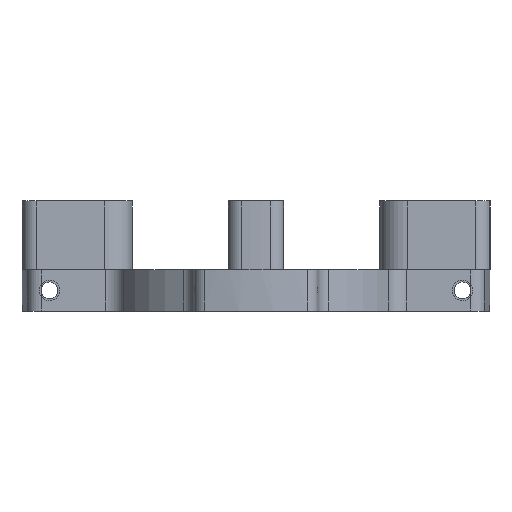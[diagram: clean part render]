
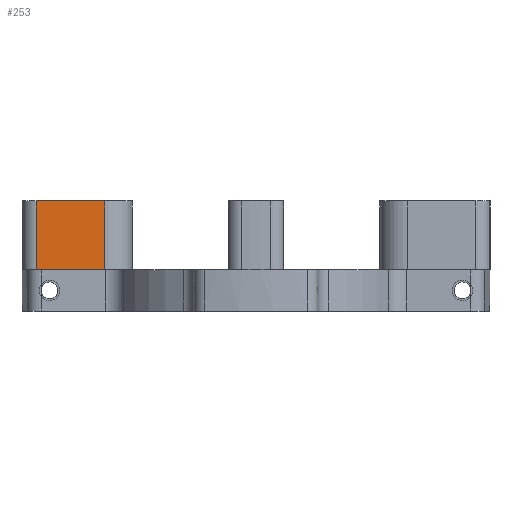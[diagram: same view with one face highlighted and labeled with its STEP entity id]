
A CAD part, front view. The second image highlights one B-rep face of the part: STEP entity #253.
In plain terms, the highlighted planar face has unit normal (0, -1, 0).
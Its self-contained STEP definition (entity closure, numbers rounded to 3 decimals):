
#253=ADVANCED_FACE('',(#431),#1864,.T.);
#431=FACE_OUTER_BOUND('',#620,.F.);
#620=EDGE_LOOP('',(#1073,#1074,#1075,#1076));
#1073=ORIENTED_EDGE('',*,*,#2705,.F.);
#1074=ORIENTED_EDGE('',*,*,#2748,.F.);
#1075=ORIENTED_EDGE('',*,*,#2742,.T.);
#1076=ORIENTED_EDGE('',*,*,#2747,.T.);
#1864=PLANE('',#3801);
#2010=LINE('',#5693,#2222);
#2019=LINE('',#5730,#2231);
#2021=LINE('',#5735,#2233);
#2022=LINE('',#5736,#2234);
#2222=VECTOR('',#4199,9.937);
#2231=VECTOR('',#4264,9.937);
#2233=VECTOR('',#4272,10.);
#2234=VECTOR('',#4273,10.);
#2705=EDGE_CURVE('',#3326,#3325,#2010,.T.);
#2742=EDGE_CURVE('',#3304,#3306,#2019,.T.);
#2747=EDGE_CURVE('',#3306,#3325,#2021,.T.);
#2748=EDGE_CURVE('',#3304,#3326,#2022,.T.);
#3304=VERTEX_POINT('',#4998);
#3306=VERTEX_POINT('',#5000);
#3325=VERTEX_POINT('',#5019);
#3326=VERTEX_POINT('',#5020);
#3801=AXIS2_PLACEMENT_3D('',#5897,#4514,#4515);
#4199=DIRECTION('',(1.,0.,0.));
#4264=DIRECTION('',(1.,0.,0.));
#4272=DIRECTION('',(0.,0.,-1.));
#4273=DIRECTION('',(0.,0.,-1.));
#4514=DIRECTION('',(0.,-1.,0.));
#4515=DIRECTION('',(1.,0.,0.));
#4998=CARTESIAN_POINT('',(252.438,415.252,375.374));
#5000=CARTESIAN_POINT('',(262.375,415.252,375.374));
#5019=CARTESIAN_POINT('',(262.375,415.252,365.374));
#5020=CARTESIAN_POINT('',(252.438,415.252,365.374));
#5693=CARTESIAN_POINT('',(252.438,415.252,365.374));
#5730=CARTESIAN_POINT('',(252.438,415.252,375.374));
#5735=CARTESIAN_POINT('',(262.375,415.252,375.374));
#5736=CARTESIAN_POINT('',(252.438,415.252,375.374));
#5897=CARTESIAN_POINT('',(252.338,415.252,365.274));
